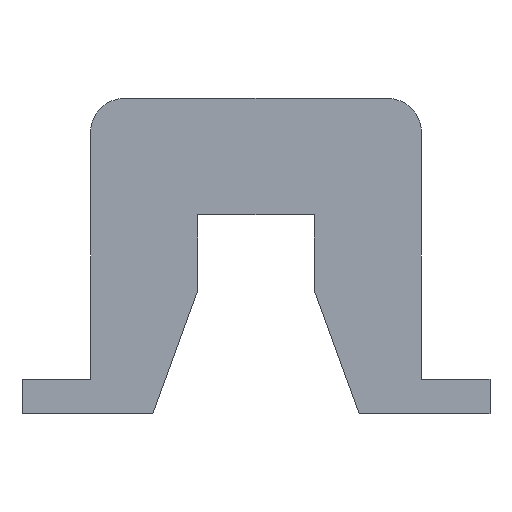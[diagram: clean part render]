
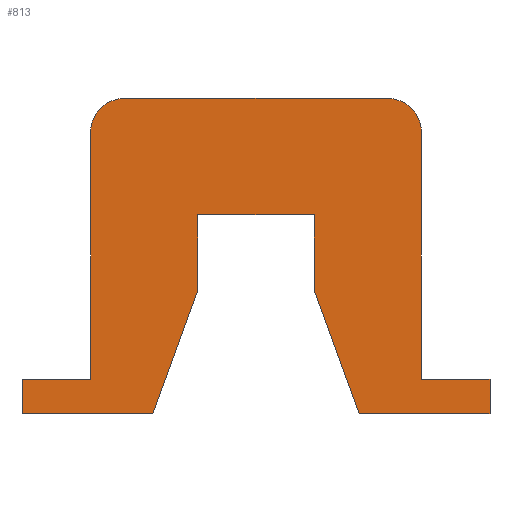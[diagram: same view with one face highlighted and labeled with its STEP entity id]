
A CAD part, left-side view. The second image highlights one B-rep face of the part: STEP entity #813.
In plain terms, the highlighted planar face has unit normal (-1, 0, 0).
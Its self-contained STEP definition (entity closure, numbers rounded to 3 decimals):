
#127=CARTESIAN_POINT('Vertex',(0.,32.65,-17.)) ;
#130=CARTESIAN_POINT('Line Origine',(0.,32.65,-22.5)) ;
#134=CARTESIAN_POINT('Vertex',(0.,32.65,-28.)) ;
#340=CARTESIAN_POINT('Line Origine',(0.,53.3,-41.)) ;
#344=CARTESIAN_POINT('Vertex',(0.,58.3,-41.)) ;
#346=CARTESIAN_POINT('Vertex',(0.,48.3,-41.)) ;
#384=CARTESIAN_POINT('Line Origine',(0.,58.3,-43.5)) ;
#388=CARTESIAN_POINT('Vertex',(0.,58.3,-46.)) ;
#428=CARTESIAN_POINT('Vertex',(0.,39.201,-46.)) ;
#431=CARTESIAN_POINT('Line Origine',(0.,43.751,-46.)) ;
#435=CARTESIAN_POINT('Vertex',(0.,48.3,-46.)) ;
#438=CARTESIAN_POINT('Line Origine',(0.,53.3,-46.)) ;
#466=CARTESIAN_POINT('Line Origine',(0.,35.926,-37.)) ;
#488=CARTESIAN_POINT('Line Origine',(0.,24.15,-17.)) ;
#492=CARTESIAN_POINT('Vertex',(0.,15.65,-17.)) ;
#519=CARTESIAN_POINT('Line Origine',(0.,15.65,-22.5)) ;
#523=CARTESIAN_POINT('Vertex',(0.,15.65,-28.)) ;
#550=CARTESIAN_POINT('Line Origine',(0.,12.374,-37.)) ;
#554=CARTESIAN_POINT('Vertex',(0.,9.099,-46.)) ;
#581=CARTESIAN_POINT('Line Origine',(0.,-10.,-43.5)) ;
#585=CARTESIAN_POINT('Vertex',(0.,-10.,-41.)) ;
#587=CARTESIAN_POINT('Vertex',(0.,-10.,-46.)) ;
#616=CARTESIAN_POINT('Line Origine',(0.,-5.,-46.)) ;
#620=CARTESIAN_POINT('Vertex',(0.,0.,-46.)) ;
#623=CARTESIAN_POINT('Line Origine',(0.,4.549,-46.)) ;
#653=CARTESIAN_POINT('Line Origine',(0.,-5.,-41.)) ;
#657=CARTESIAN_POINT('Vertex',(0.,0.,-41.)) ;
#688=CARTESIAN_POINT('Line Origine',(0.,0.,-23.)) ;
#692=CARTESIAN_POINT('Vertex',(0.,0.,-5.)) ;
#730=CARTESIAN_POINT('Vertex',(0.,5.,0.)) ;
#733=CARTESIAN_POINT('Axis2P3D Location',(0.,5.,-5.)) ;
#757=CARTESIAN_POINT('Line Origine',(0.,48.3,-23.)) ;
#761=CARTESIAN_POINT('Vertex',(0.,48.3,-5.)) ;
#776=CARTESIAN_POINT('Axis2P3D Location',(0.,0.,0.)) ;
#781=CARTESIAN_POINT('Axis2P3D Location',(0.,43.3,-5.)) ;
#785=CARTESIAN_POINT('Vertex',(0.,43.3,0.)) ;
#788=CARTESIAN_POINT('Line Origine',(0.,24.15,0.)) ;
#131=DIRECTION('Vector Direction',(0.,0.,1.)) ;
#341=DIRECTION('Vector Direction',(0.,-1.,0.)) ;
#385=DIRECTION('Vector Direction',(0.,0.,1.)) ;
#432=DIRECTION('Vector Direction',(0.,-1.,0.)) ;
#439=DIRECTION('Vector Direction',(0.,1.,0.)) ;
#467=DIRECTION('Vector Direction',(0.,0.342,-0.94)) ;
#489=DIRECTION('Vector Direction',(0.,1.,0.)) ;
#520=DIRECTION('Vector Direction',(0.,0.,1.)) ;
#551=DIRECTION('Vector Direction',(0.,-0.342,-0.94)) ;
#582=DIRECTION('Vector Direction',(0.,0.,1.)) ;
#617=DIRECTION('Vector Direction',(0.,1.,0.)) ;
#624=DIRECTION('Vector Direction',(0.,-1.,0.)) ;
#654=DIRECTION('Vector Direction',(0.,-1.,0.)) ;
#689=DIRECTION('Vector Direction',(0.,0.,-1.)) ;
#734=DIRECTION('Axis2P3D Direction',(1.,0.,0.)) ;
#758=DIRECTION('Vector Direction',(0.,0.,1.)) ;
#777=DIRECTION('Axis2P3D Direction',(1.,0.,0.)) ;
#778=DIRECTION('Axis2P3D XDirection',(0.,1.,0.)) ;
#782=DIRECTION('Axis2P3D Direction',(1.,0.,0.)) ;
#789=DIRECTION('Vector Direction',(0.,1.,0.)) ;
#735=AXIS2_PLACEMENT_3D('Circle Axis2P3D',#733,#734,$) ;
#779=AXIS2_PLACEMENT_3D('Plane Axis2P3D',#776,#777,#778) ;
#783=AXIS2_PLACEMENT_3D('Circle Axis2P3D',#781,#782,$) ;
#794=ORIENTED_EDGE('',*,*,#787,.F.) ;
#795=ORIENTED_EDGE('',*,*,#763,.F.) ;
#796=ORIENTED_EDGE('',*,*,#348,.F.) ;
#797=ORIENTED_EDGE('',*,*,#390,.F.) ;
#798=ORIENTED_EDGE('',*,*,#442,.F.) ;
#799=ORIENTED_EDGE('',*,*,#437,.F.) ;
#800=ORIENTED_EDGE('',*,*,#470,.F.) ;
#801=ORIENTED_EDGE('',*,*,#136,.T.) ;
#802=ORIENTED_EDGE('',*,*,#494,.F.) ;
#803=ORIENTED_EDGE('',*,*,#525,.F.) ;
#804=ORIENTED_EDGE('',*,*,#556,.F.) ;
#805=ORIENTED_EDGE('',*,*,#627,.F.) ;
#806=ORIENTED_EDGE('',*,*,#622,.F.) ;
#807=ORIENTED_EDGE('',*,*,#589,.F.) ;
#808=ORIENTED_EDGE('',*,*,#659,.F.) ;
#809=ORIENTED_EDGE('',*,*,#694,.F.) ;
#810=ORIENTED_EDGE('',*,*,#737,.F.) ;
#811=ORIENTED_EDGE('',*,*,#792,.F.) ;
#132=VECTOR('Line Direction',#131,1.) ;
#342=VECTOR('Line Direction',#341,1.) ;
#386=VECTOR('Line Direction',#385,1.) ;
#433=VECTOR('Line Direction',#432,1.) ;
#440=VECTOR('Line Direction',#439,1.) ;
#468=VECTOR('Line Direction',#467,1.) ;
#490=VECTOR('Line Direction',#489,1.) ;
#521=VECTOR('Line Direction',#520,1.) ;
#552=VECTOR('Line Direction',#551,1.) ;
#583=VECTOR('Line Direction',#582,1.) ;
#618=VECTOR('Line Direction',#617,1.) ;
#625=VECTOR('Line Direction',#624,1.) ;
#655=VECTOR('Line Direction',#654,1.) ;
#690=VECTOR('Line Direction',#689,1.) ;
#759=VECTOR('Line Direction',#758,1.) ;
#790=VECTOR('Line Direction',#789,1.) ;
#813=ADVANCED_FACE('Hauptk\X2\00F6\X0\rper',(#812),#780,.F.) ;
#736=CIRCLE('generated circle',#735,5.) ;
#784=CIRCLE('generated circle',#783,5.) ;
#136=EDGE_CURVE('',#135,#128,#133,.T.) ;
#348=EDGE_CURVE('',#345,#347,#343,.T.) ;
#390=EDGE_CURVE('',#389,#345,#387,.T.) ;
#437=EDGE_CURVE('',#429,#436,#434,.F.) ;
#442=EDGE_CURVE('',#436,#389,#441,.T.) ;
#470=EDGE_CURVE('',#135,#429,#469,.T.) ;
#494=EDGE_CURVE('',#493,#128,#491,.T.) ;
#525=EDGE_CURVE('',#524,#493,#522,.T.) ;
#556=EDGE_CURVE('',#555,#524,#553,.F.) ;
#589=EDGE_CURVE('',#586,#588,#584,.F.) ;
#622=EDGE_CURVE('',#588,#621,#619,.T.) ;
#627=EDGE_CURVE('',#621,#555,#626,.F.) ;
#659=EDGE_CURVE('',#658,#586,#656,.T.) ;
#694=EDGE_CURVE('',#693,#658,#691,.T.) ;
#737=EDGE_CURVE('',#731,#693,#736,.T.) ;
#763=EDGE_CURVE('',#347,#762,#760,.T.) ;
#787=EDGE_CURVE('',#762,#786,#784,.T.) ;
#792=EDGE_CURVE('',#786,#731,#791,.F.) ;
#793=EDGE_LOOP('',(#794,#795,#796,#797,#798,#799,#800,#801,#802,#803,#804,#805,#806,#807,#808,#809,#810,#811)) ;
#812=FACE_OUTER_BOUND('',#793,.T.) ;
#133=LINE('Line',#130,#132) ;
#343=LINE('Line',#340,#342) ;
#387=LINE('Line',#384,#386) ;
#434=LINE('Line',#431,#433) ;
#441=LINE('Line',#438,#440) ;
#469=LINE('Line',#466,#468) ;
#491=LINE('Line',#488,#490) ;
#522=LINE('Line',#519,#521) ;
#553=LINE('Line',#550,#552) ;
#584=LINE('Line',#581,#583) ;
#619=LINE('Line',#616,#618) ;
#626=LINE('Line',#623,#625) ;
#656=LINE('Line',#653,#655) ;
#691=LINE('Line',#688,#690) ;
#760=LINE('Line',#757,#759) ;
#791=LINE('Line',#788,#790) ;
#780=PLANE('',#779) ;
#128=VERTEX_POINT('',#127) ;
#135=VERTEX_POINT('',#134) ;
#345=VERTEX_POINT('',#344) ;
#347=VERTEX_POINT('',#346) ;
#389=VERTEX_POINT('',#388) ;
#429=VERTEX_POINT('',#428) ;
#436=VERTEX_POINT('',#435) ;
#493=VERTEX_POINT('',#492) ;
#524=VERTEX_POINT('',#523) ;
#555=VERTEX_POINT('',#554) ;
#586=VERTEX_POINT('',#585) ;
#588=VERTEX_POINT('',#587) ;
#621=VERTEX_POINT('',#620) ;
#658=VERTEX_POINT('',#657) ;
#693=VERTEX_POINT('',#692) ;
#731=VERTEX_POINT('',#730) ;
#762=VERTEX_POINT('',#761) ;
#786=VERTEX_POINT('',#785) ;
